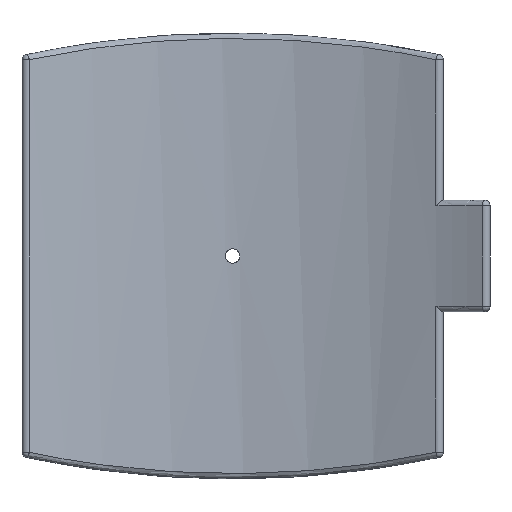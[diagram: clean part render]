
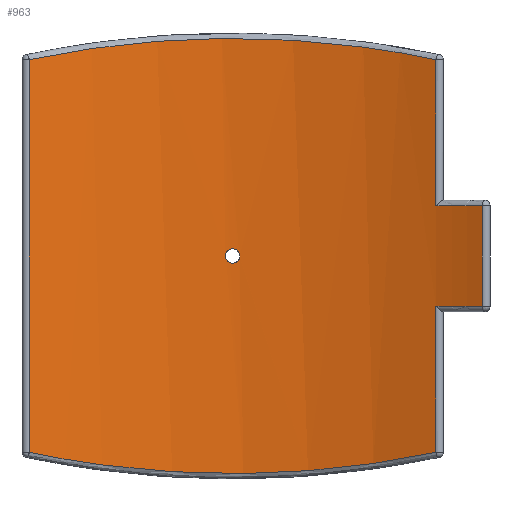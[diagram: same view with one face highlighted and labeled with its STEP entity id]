
A CAD part, front view. The second image highlights one B-rep face of the part: STEP entity #963.
In plain terms, the highlighted cylindrical face has radius 354 mm (diameter 708 mm), a partial arc.
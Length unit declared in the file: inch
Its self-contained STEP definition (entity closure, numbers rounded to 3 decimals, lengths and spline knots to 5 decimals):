
#45=B_SPLINE_CURVE_WITH_KNOTS('',3,(#1822,#1823,#1824,#1825,#1826,#1827,
#1828,#1829,#1830,#1831,#1832,#1833,#1834,#1835,#1836,#1837,#1838,#1839,
#1840,#1841,#1842,#1843,#1844,#1845,#1846,#1847,#1848,#1849,#1850,#1851,
#1852,#1853,#1854,#1855),.UNSPECIFIED.,.T.,.F.,(4,2,2,2,2,2,2,2,2,2,2,2,
2,2,2,2,4),(0.,0.18081,0.36162,0.54244,0.72325,
0.90406,1.08487,1.26568,1.4465,1.62731,
1.80812,1.98893,2.16974,2.35056,2.53137,
2.71218,2.89299),.UNSPECIFIED.);
#51=B_SPLINE_CURVE_WITH_KNOTS('',3,(#2207,#2208,#2209,#2210,#2211,#2212,
#2213,#2214,#2215,#2216),.UNSPECIFIED.,.F.,.F.,(4,1,1,1,1,1,1,4),(-33.25362,
-29.17303,-25.09244,-21.01185,-16.93126,
-12.85066,-8.77007,-4.68948),.UNSPECIFIED.);
#57=B_SPLINE_CURVE_WITH_KNOTS('',3,(#2351,#2352,#2353,#2354,#2355,#2356,
#2357,#2358,#2359,#2360),.UNSPECIFIED.,.F.,.F.,(4,1,1,1,1,1,1,4),(-30.29532,
-26.21473,-22.13413,-18.05354,-13.97295,-9.89236,
-5.81177,-1.73118),.UNSPECIFIED.);
#78=LINE('',#2146,#118);
#82=LINE('',#2231,#122);
#89=LINE('',#2270,#129);
#94=LINE('',#2379,#134);
#118=VECTOR('',#1327,0.3937);
#122=VECTOR('',#1343,0.3937);
#129=VECTOR('',#1366,0.3937);
#134=VECTOR('',#1391,0.3937);
#166=CYLINDRICAL_SURFACE('',#1114,13.93701);
#177=FACE_BOUND('',#332,.T.);
#255=FACE_OUTER_BOUND('',#331,.T.);
#331=EDGE_LOOP('',(#875,#876,#877,#878,#879,#880,#881,#882));
#332=EDGE_LOOP('',(#883));
#398=CIRCLE('',#1089,13.93701);
#401=CIRCLE('',#1097,13.93701);
#433=VERTEX_POINT('',#1820);
#451=VERTEX_POINT('',#1959);
#456=VERTEX_POINT('',#2035);
#465=VERTEX_POINT('',#2061);
#466=VERTEX_POINT('',#2065);
#471=VERTEX_POINT('',#2138);
#476=VERTEX_POINT('',#2154);
#478=VERTEX_POINT('',#2230);
#482=VERTEX_POINT('',#2274);
#520=EDGE_CURVE('',#433,#433,#45,.T.);
#580=EDGE_CURVE('',#471,#465,#78,.T.);
#586=EDGE_CURVE('',#466,#476,#51,.T.);
#589=EDGE_CURVE('',#476,#478,#82,.T.);
#592=EDGE_CURVE('',#478,#471,#398,.T.);
#601=EDGE_CURVE('',#456,#466,#89,.T.);
#603=EDGE_CURVE('',#465,#482,#401,.T.);
#611=EDGE_CURVE('',#451,#456,#57,.T.);
#615=EDGE_CURVE('',#482,#451,#94,.T.);
#875=ORIENTED_EDGE('',*,*,#586,.F.);
#876=ORIENTED_EDGE('',*,*,#601,.F.);
#877=ORIENTED_EDGE('',*,*,#611,.F.);
#878=ORIENTED_EDGE('',*,*,#615,.F.);
#879=ORIENTED_EDGE('',*,*,#603,.F.);
#880=ORIENTED_EDGE('',*,*,#580,.F.);
#881=ORIENTED_EDGE('',*,*,#592,.F.);
#882=ORIENTED_EDGE('',*,*,#589,.F.);
#883=ORIENTED_EDGE('',*,*,#520,.T.);
#963=ADVANCED_FACE('',(#255,#177),#166,.F.);
#1089=AXIS2_PLACEMENT_3D('',#2247,#1348,#1349);
#1097=AXIS2_PLACEMENT_3D('',#2275,#1371,#1372);
#1114=AXIS2_PLACEMENT_3D('',#2395,#1415,#1416);
#1327=DIRECTION('',(0.,0.,-1.));
#1343=DIRECTION('',(0.,0.,-1.));
#1348=DIRECTION('center_axis',(0.,0.,-1.));
#1349=DIRECTION('ref_axis',(0.445,0.895,0.));
#1366=DIRECTION('',(0.,0.,1.));
#1371=DIRECTION('center_axis',(0.,0.,1.));
#1372=DIRECTION('ref_axis',(0.445,0.895,0.));
#1391=DIRECTION('',(0.,0.,-1.));
#1415=DIRECTION('center_axis',(0.,0.,1.));
#1416=DIRECTION('ref_axis',(-1.,0.,0.));
#1820=CARTESIAN_POINT('',(0.18898,13.93573,0.));
#1822=CARTESIAN_POINT('Ctrl Pts',(0.18898,13.93573,0.));
#1823=CARTESIAN_POINT('Ctrl Pts',(0.18898,13.93573,-0.02373));
#1824=CARTESIAN_POINT('Ctrl Pts',(0.18423,13.93579,-0.04904));
#1825=CARTESIAN_POINT('Ctrl Pts',(0.16495,13.93604,-0.0956));
#1826=CARTESIAN_POINT('Ctrl Pts',(0.1504,13.93621,-0.11685));
#1827=CARTESIAN_POINT('Ctrl Pts',(0.11685,13.93653,-0.1504));
#1828=CARTESIAN_POINT('Ctrl Pts',(0.0956,13.9367,-0.16495));
#1829=CARTESIAN_POINT('Ctrl Pts',(0.04904,13.93694,-0.18423));
#1830=CARTESIAN_POINT('Ctrl Pts',(0.02373,13.93701,-0.18898));
#1831=CARTESIAN_POINT('Ctrl Pts',(-0.02373,13.93701,-0.18898));
#1832=CARTESIAN_POINT('Ctrl Pts',(-0.04904,13.93694,
-0.18423));
#1833=CARTESIAN_POINT('Ctrl Pts',(-0.0956,13.9367,
-0.16495));
#1834=CARTESIAN_POINT('Ctrl Pts',(-0.11685,13.93653,-0.1504));
#1835=CARTESIAN_POINT('Ctrl Pts',(-0.1504,13.93621,-0.11685));
#1836=CARTESIAN_POINT('Ctrl Pts',(-0.16495,13.93604,-0.0956));
#1837=CARTESIAN_POINT('Ctrl Pts',(-0.18423,13.93579,-0.04904));
#1838=CARTESIAN_POINT('Ctrl Pts',(-0.18898,13.93573,-0.02373));
#1839=CARTESIAN_POINT('Ctrl Pts',(-0.18898,13.93573,0.02373));
#1840=CARTESIAN_POINT('Ctrl Pts',(-0.18423,13.93579,0.04904));
#1841=CARTESIAN_POINT('Ctrl Pts',(-0.16495,13.93604,0.0956));
#1842=CARTESIAN_POINT('Ctrl Pts',(-0.1504,13.93621,0.11685));
#1843=CARTESIAN_POINT('Ctrl Pts',(-0.11685,13.93653,0.1504));
#1844=CARTESIAN_POINT('Ctrl Pts',(-0.0956,13.9367,
0.16495));
#1845=CARTESIAN_POINT('Ctrl Pts',(-0.04904,13.93694,
0.18423));
#1846=CARTESIAN_POINT('Ctrl Pts',(-0.02373,13.93701,0.18898));
#1847=CARTESIAN_POINT('Ctrl Pts',(0.02373,13.93701,0.18898));
#1848=CARTESIAN_POINT('Ctrl Pts',(0.04904,13.93694,0.18423));
#1849=CARTESIAN_POINT('Ctrl Pts',(0.0956,13.9367,0.16495));
#1850=CARTESIAN_POINT('Ctrl Pts',(0.11685,13.93653,0.1504));
#1851=CARTESIAN_POINT('Ctrl Pts',(0.1504,13.93621,0.11685));
#1852=CARTESIAN_POINT('Ctrl Pts',(0.16495,13.93604,0.0956));
#1853=CARTESIAN_POINT('Ctrl Pts',(0.18423,13.93579,0.04904));
#1854=CARTESIAN_POINT('Ctrl Pts',(0.18898,13.93573,0.02373));
#1855=CARTESIAN_POINT('Ctrl Pts',(0.18898,13.93573,0.));
#1959=CARTESIAN_POINT('',(5.38676,12.85391,-5.20156));
#2035=CARTESIAN_POINT('',(-5.38676,12.85391,-5.20156));
#2061=CARTESIAN_POINT('',(6.61449,12.26739,-1.33688));
#2065=CARTESIAN_POINT('',(-5.38676,12.85391,5.20156));
#2138=CARTESIAN_POINT('',(6.61449,12.26739,1.33688));
#2146=CARTESIAN_POINT('',(6.61449,12.26739,0.));
#2154=CARTESIAN_POINT('',(5.38676,12.85391,5.20156));
#2207=CARTESIAN_POINT('Ctrl Pts',(-5.38676,12.85391,5.20156));
#2208=CARTESIAN_POINT('Ctrl Pts',(-4.90664,13.05512,5.3032));
#2209=CARTESIAN_POINT('Ctrl Pts',(-3.91976,13.40537,5.48367));
#2210=CARTESIAN_POINT('Ctrl Pts',(-2.37793,13.76319,5.67255));
#2211=CARTESIAN_POINT('Ctrl Pts',(-0.79692,13.94457,5.76968));
#2212=CARTESIAN_POINT('Ctrl Pts',(0.79692,13.94455,5.76966));
#2213=CARTESIAN_POINT('Ctrl Pts',(2.37782,13.76322,5.67258));
#2214=CARTESIAN_POINT('Ctrl Pts',(3.91976,13.40537,5.48366));
#2215=CARTESIAN_POINT('Ctrl Pts',(4.9066,13.05513,5.30321));
#2216=CARTESIAN_POINT('Ctrl Pts',(5.38676,12.85391,5.20156));
#2230=CARTESIAN_POINT('',(5.38676,12.85391,1.33688));
#2231=CARTESIAN_POINT('',(5.38676,12.85391,0.));
#2247=CARTESIAN_POINT('Origin',(0.,0.,1.33688));
#2270=CARTESIAN_POINT('',(-5.38676,12.85391,0.));
#2274=CARTESIAN_POINT('',(5.38676,12.85391,-1.33688));
#2275=CARTESIAN_POINT('Origin',(0.,0.,-1.33688));
#2351=CARTESIAN_POINT('Ctrl Pts',(5.38676,12.85391,-5.20156));
#2352=CARTESIAN_POINT('Ctrl Pts',(4.9066,13.05513,-5.30321));
#2353=CARTESIAN_POINT('Ctrl Pts',(3.91976,13.40537,-5.48366));
#2354=CARTESIAN_POINT('Ctrl Pts',(2.37782,13.76322,-5.67258));
#2355=CARTESIAN_POINT('Ctrl Pts',(0.79693,13.94455,-5.76966));
#2356=CARTESIAN_POINT('Ctrl Pts',(-0.79692,13.94457,-5.76968));
#2357=CARTESIAN_POINT('Ctrl Pts',(-2.37792,13.76319,-5.67255));
#2358=CARTESIAN_POINT('Ctrl Pts',(-3.91977,13.40537,-5.48367));
#2359=CARTESIAN_POINT('Ctrl Pts',(-4.90664,13.05512,-5.3032));
#2360=CARTESIAN_POINT('Ctrl Pts',(-5.38676,12.85391,-5.20156));
#2379=CARTESIAN_POINT('',(5.38676,12.85391,0.));
#2395=CARTESIAN_POINT('Origin',(0.,0.,0.));
